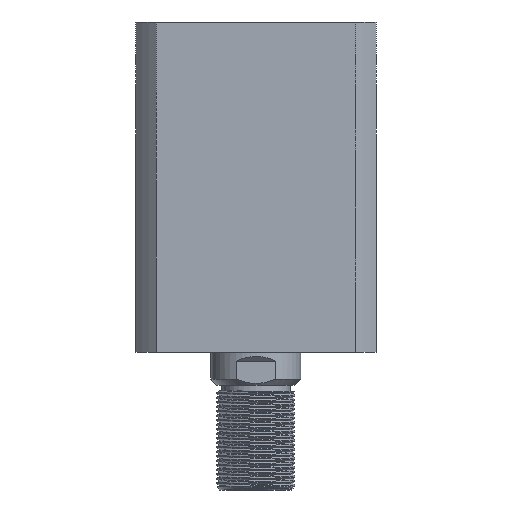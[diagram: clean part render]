
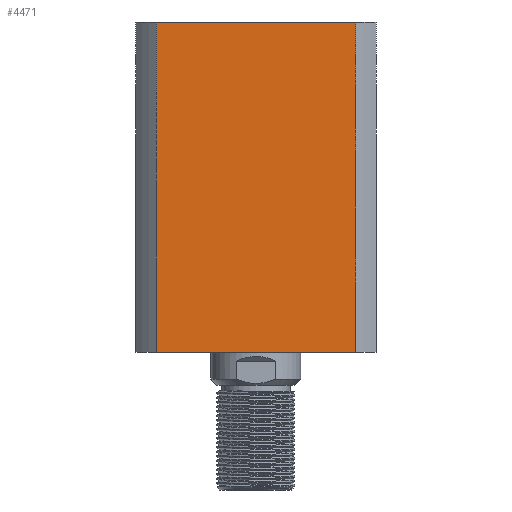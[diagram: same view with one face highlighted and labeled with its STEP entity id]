
A CAD part, left-side view. The second image highlights one B-rep face of the part: STEP entity #4471.
In plain terms, the highlighted planar face has unit normal (-1, 0, 0).
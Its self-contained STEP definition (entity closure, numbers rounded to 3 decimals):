
#251 = CARTESIAN_POINT ( 'NONE',  ( -40., 33.226, -55. ) ) ;
#522 = DIRECTION ( 'NONE',  ( 0., -1., 0. ) ) ;
#884 = EDGE_CURVE ( 'NONE', #6926, #3012, #9752, .T. ) ;
#1074 = VECTOR ( 'NONE', #522, 1000. ) ;
#1285 = EDGE_CURVE ( 'NONE', #17250, #3012, #5832, .T. ) ;
#1725 = VECTOR ( 'NONE', #9966, 1000. ) ;
#2623 = DIRECTION ( 'NONE',  ( 0., 1., 0. ) ) ;
#2907 = CARTESIAN_POINT ( 'NONE',  ( -40., 33.226, 55. ) ) ;
#3012 = VERTEX_POINT ( 'NONE', #14204 ) ;
#3872 = ORIENTED_EDGE ( 'NONE', *, *, #9119, .F. ) ;
#3892 = PLANE ( 'NONE',  #5705 ) ;
#3954 = CARTESIAN_POINT ( 'NONE',  ( -40., 33.226, 55. ) ) ;
#3964 = FACE_OUTER_BOUND ( 'NONE', #17388, .T. ) ;
#4471 = ADVANCED_FACE ( 'NONE', ( #3964 ), #3892, .F. ) ;
#5006 = ORIENTED_EDGE ( 'NONE', *, *, #13393, .T. ) ;
#5705 = AXIS2_PLACEMENT_3D ( 'NONE', #3954, #10941, #2623 ) ;
#5759 = CARTESIAN_POINT ( 'NONE',  ( -40., 33.226, -55. ) ) ;
#5832 = LINE ( 'NONE', #6957, #12130 ) ;
#6240 = VECTOR ( 'NONE', #16440, 1000. ) ;
#6926 = VERTEX_POINT ( 'NONE', #5759 ) ;
#6957 = CARTESIAN_POINT ( 'NONE',  ( -40., -33.226, 55. ) ) ;
#7894 = CARTESIAN_POINT ( 'NONE',  ( -40., -33.226, 55. ) ) ;
#9119 = EDGE_CURVE ( 'NONE', #9860, #17250, #13457, .T. ) ;
#9304 = ORIENTED_EDGE ( 'NONE', *, *, #884, .T. ) ;
#9752 = LINE ( 'NONE', #251, #1725 ) ;
#9860 = VERTEX_POINT ( 'NONE', #2907 ) ;
#9955 = LINE ( 'NONE', #13512, #6240 ) ;
#9966 = DIRECTION ( 'NONE',  ( 0., -1., 0. ) ) ;
#10302 = CARTESIAN_POINT ( 'NONE',  ( -40., 33.226, 55. ) ) ;
#10390 = ORIENTED_EDGE ( 'NONE', *, *, #1285, .F. ) ;
#10941 = DIRECTION ( 'NONE',  ( 1., 0., 0. ) ) ;
#12130 = VECTOR ( 'NONE', #16435, 1000. ) ;
#13393 = EDGE_CURVE ( 'NONE', #9860, #6926, #9955, .T. ) ;
#13457 = LINE ( 'NONE', #10302, #1074 ) ;
#13512 = CARTESIAN_POINT ( 'NONE',  ( -40., 33.226, 55. ) ) ;
#14204 = CARTESIAN_POINT ( 'NONE',  ( -40., -33.226, -55. ) ) ;
#16435 = DIRECTION ( 'NONE',  ( 0., 0., -1. ) ) ;
#16440 = DIRECTION ( 'NONE',  ( 0., 0., -1. ) ) ;
#17250 = VERTEX_POINT ( 'NONE', #7894 ) ;
#17388 = EDGE_LOOP ( 'NONE', ( #9304, #10390, #3872, #5006 ) ) ;
